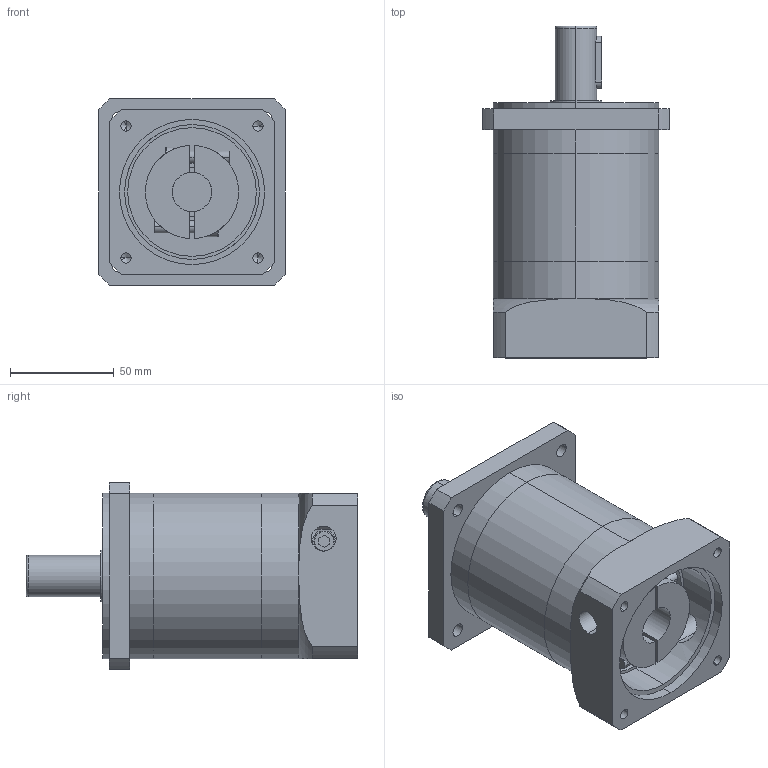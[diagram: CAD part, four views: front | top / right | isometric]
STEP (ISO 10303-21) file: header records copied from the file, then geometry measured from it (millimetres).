
FILE_DESCRIPTION (( 'STEP AP203' ), '1' );
FILE_NAME ('WPF080ﾐﾂ-L1(750W)ﾍ簟ﾎﾍｼ(19-41-70-90-M6).STEP', '2018-05-23T03:05:08', ( 'wanshsin' ), ( 'Microsoft' ), 'SwSTEP 2.0', 'SolidWorks 2014', '' );
FILE_SCHEMA (( 'CONFIG_CONTROL_DESIGN' ));
Length unit declared in the file: millimetre
Products named in the file (1): WPF080ﾐﾂ-L1(750W)ﾍ簟ﾎﾍｼ(19-41-70-90-M6)
Bounding box: 90 x 160 x 90 mm (x, y, z)
Volume: 609972.6 mm3; surface area: 91026.2 mm2
Topology: 4 solids, 4 shells, 163 faces, 382 edges, 239 vertices
Faces by surface type: cylinder 80, plane 59, cone 14, torus 10
Entity records: 5317 total; most frequent: CARTESIAN_POINT 1411, DIRECTION 848, ORIENTED_EDGE 744, EDGE_CURVE 372, AXIS2_PLACEMENT_3D 336, VERTEX_POINT 239, EDGE_LOOP 203, LINE 176
